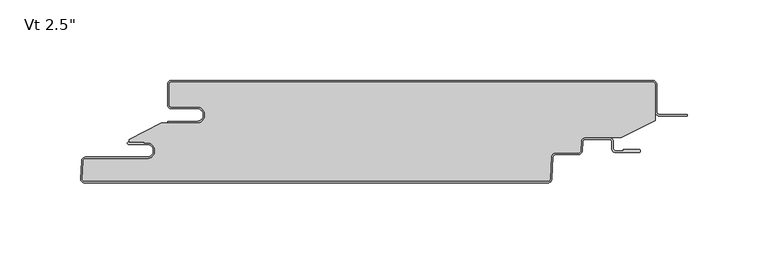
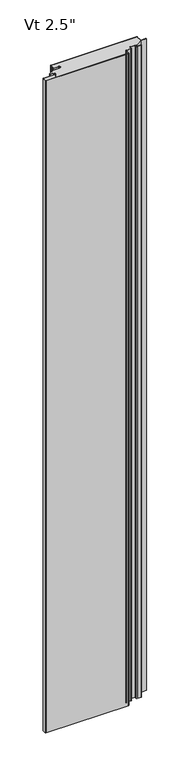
"""IFC4 building model written with IfcOpenShell, lengths in millimetres: plate geometry."""

import ifcopenshell
import ifcopenshell.guid

model = None  # the IFC model being written
_history = None  # IfcOwnerHistory: only IFC2X3 demands one
_inside = {}  # id of a spatial element -> (the spatial element, [elements in it])
_under = {}  # id of a project, library or spatial element -> (it, [spatial elements below it])
_declared = {}  # id of a project -> (the project, [libraries it declares])
_typed = {}  # id of a type object -> (the type object, [elements of that type])
_made_of = {}  # id of a material, layer set ... -> (it, [elements and type objects made of it])


def new_model(schema):
    """Start an empty IFC model of exactly this schema.

    Asked for "IFC4X3", IfcOpenShell would pick the latest addendum, in which some entities
    have other attributes; the version numbers below select the first issue.
    IFC2X3 requires an IfcOwnerHistory on every rooted entity: one is made here for all.
    """
    global model, _history
    if schema == "IFC4X3":
        model = ifcopenshell.file(schema_version=(4, 3, 0, 0))
    else:
        model = ifcopenshell.file(schema=schema)
    _inside.clear()
    _under.clear()
    _declared.clear()
    _typed.clear()
    _made_of.clear()
    _history = None
    if model.schema == "IFC2X3":
        org = make("IfcOrganization", Name="unknown")
        user = make(
            "IfcPersonAndOrganization",
            ThePerson=make("IfcPerson", FamilyName="unknown"),
            TheOrganization=org,
        )
        app = make(
            "IfcApplication",
            ApplicationDeveloper=org,
            Version="unknown",
            ApplicationFullName="unknown",
            ApplicationIdentifier="unknown",
        )
        _history = make(
            "IfcOwnerHistory",
            OwningUser=user,
            OwningApplication=app,
            ChangeAction="ADDED",
            CreationDate=0,
        )
    return model


def make(cls, **values):
    """One entity of the class cls with the attributes given. An attribute that is None is left unset."""
    return model.create_entity(
        cls, **{name: value for name, value in values.items() if value is not None}
    )


def rooted(cls, **values):
    """An entity with a GlobalId (a new one), such as an element, a storey or a relation."""
    return make(cls, GlobalId=ifcopenshell.guid.new(), OwnerHistory=_history, **values)


def si_unit(unit_type, name, prefix=None):
    """IfcSIUnit, for example si_unit("LENGTHUNIT", "METRE", prefix="MILLI")."""
    return make("IfcSIUnit", UnitType=unit_type, Prefix=prefix, Name=name)


def assignment(units):
    """IfcUnitAssignment: the units of a project."""
    return None if units is None else make("IfcUnitAssignment", Units=units)


def point(xyz):
    """IfcCartesianPoint."""
    return None if xyz is None else make("IfcCartesianPoint", Coordinates=xyz)


def direction(xyz):
    """IfcDirection."""
    return None if xyz is None else make("IfcDirection", DirectionRatios=xyz)


def frame(location, z_axis=None, x_axis=None):
    """IfcAxis2Placement3D, a coordinate frame: its origin and axes. An axis left out is left unset."""
    return make(
        "IfcAxis2Placement3D",
        Location=point(location),
        Axis=direction(z_axis),
        RefDirection=direction(x_axis),
    )


def frame_2d(location, x_axis=None):
    """IfcAxis2Placement2D, a coordinate frame in the plane: its origin and x axis."""
    return make(
        "IfcAxis2Placement2D", Location=point(location), RefDirection=direction(x_axis)
    )


def origin():
    """The frame at (0, 0, 0) with its axes left unset."""
    return frame((0.0, 0.0, 0.0))


def origin_with_axes():
    """The frame at (0, 0, 0) with the z axis (0, 0, 1) and the x axis (1, 0, 0) written out."""
    return frame((0.0, 0.0, 0.0), z_axis=(0.0, 0.0, 1.0), x_axis=(1.0, 0.0, 0.0))


def place(relative_to, where):
    """IfcLocalPlacement: puts the frame where relative to a parent placement (None: the world)."""
    return make(
        "IfcLocalPlacement", PlacementRelTo=relative_to, RelativePlacement=where
    )


def context(
    kind, dimensions, precision=None, world=None, true_north=None, identifier=None
):
    """IfcGeometricRepresentationContext, for example the 3D "Model" context."""
    return make(
        "IfcGeometricRepresentationContext",
        ContextIdentifier=identifier,
        ContextType=kind,
        CoordinateSpaceDimension=dimensions,
        Precision=precision,
        WorldCoordinateSystem=world,
        TrueNorth=true_north,
    )


def project(units=None, contexts=None):
    """IfcProject with its units and contexts."""
    return rooted(
        "IfcProject",
        Name="project",
        RepresentationContexts=contexts,
        UnitsInContext=assignment(units),
    )


def spatial(cls, under=None, at=None, **own):
    """A site, building, storey or space (cls), placed at a placement, below another one or the project."""
    s = rooted(cls, ObjectPlacement=at, **own)
    if under is not None:
        _under.setdefault(under.id(), (under, []))[1].append(s)
    return s


def polyline(points):
    """IfcPolyline through the points."""
    return make("IfcPolyline", Points=[point(p) for p in points])


def circle_curve(where, radius):
    """IfcCircle in the frame where."""
    return make("IfcCircle", Position=where, Radius=radius)


def ellipse_curve(where, semi_axis1, semi_axis2):
    """IfcEllipse in the frame where."""
    return make(
        "IfcEllipse", Position=where, SemiAxis1=semi_axis1, SemiAxis2=semi_axis2
    )


def trimmed(basis, trim1, trim2, sense, master):
    """IfcTrimmedCurve: the piece of a basis curve between two trims."""
    return make(
        "IfcTrimmedCurve",
        BasisCurve=basis,
        Trim1=trim1,
        Trim2=trim2,
        SenseAgreement=sense,
        MasterRepresentation=master,
    )


def segment(curve, same_sense, transition):
    """IfcCompositeCurveSegment."""
    return make(
        "IfcCompositeCurveSegment",
        Transition=transition,
        SameSense=same_sense,
        ParentCurve=curve,
    )


def composite_curve(segments, self_intersect=None):
    """IfcCompositeCurve: segments joined end to end."""
    return make("IfcCompositeCurve", Segments=segments, SelfIntersect=self_intersect)


def outline(outer, holes=None, kind="AREA"):
    """IfcArbitraryClosedProfileDef: a profile drawn as a closed curve; with holes, ...WithVoids."""
    if holes is None:
        return make("IfcArbitraryClosedProfileDef", ProfileType=kind, OuterCurve=outer)
    return make(
        "IfcArbitraryProfileDefWithVoids",
        ProfileType=kind,
        OuterCurve=outer,
        InnerCurves=holes,
    )


def extrude(swept, where, along, depth):
    """IfcExtrudedAreaSolid: the profile swept, set in the frame where, extruded along a direction by depth."""
    return make(
        "IfcExtrudedAreaSolid",
        SweptArea=swept,
        Position=where,
        ExtrudedDirection=direction(along),
        Depth=depth,
    )


def shape(context_of_items, identifier, shape_type, items):
    """IfcShapeRepresentation: the items that make up one representation, for example the "Body"."""
    return make(
        "IfcShapeRepresentation",
        ContextOfItems=context_of_items,
        RepresentationIdentifier=identifier,
        RepresentationType=shape_type,
        Items=items,
    )


def source(mapping_origin, context_of_items, identifier, shape_type, items):
    """IfcRepresentationMap: a shape defined once, which mapped items show again and again."""
    return make(
        "IfcRepresentationMap",
        MappingOrigin=mapping_origin,
        MappedRepresentation=shape(context_of_items, identifier, shape_type, items),
    )


def transform(
    local_origin,
    x_axis=None,
    y_axis=None,
    z_axis=None,
    scale=None,
    scale2=None,
    scale3=None,
    uniform=True,
):
    """IfcCartesianTransformationOperator3D, or its non-uniform kind. x_axis, y_axis, z_axis: its Axis1, 2, 3."""
    if uniform:
        return make(
            "IfcCartesianTransformationOperator3D",
            Axis1=direction(x_axis),
            Axis2=direction(y_axis),
            LocalOrigin=point(local_origin),
            Scale=scale,
            Axis3=direction(z_axis),
        )
    return make(
        "IfcCartesianTransformationOperator3DnonUniform",
        Axis1=direction(x_axis),
        Axis2=direction(y_axis),
        LocalOrigin=point(local_origin),
        Scale=scale,
        Axis3=direction(z_axis),
        Scale2=scale2,
        Scale3=scale3,
    )


def mapped(mapping_source, mapping_target):
    """IfcMappedItem: shows the shape of a source again, moved by a transform."""
    return make(
        "IfcMappedItem", MappingSource=mapping_source, MappingTarget=mapping_target
    )


def made_of(thing, what):
    """Note that an element or type object is made of a material, layer set ...; save() writes the relation."""
    if what is not None:
        _made_of.setdefault(what.id(), (what, []))[1].append(thing)
    return thing


def element(
    cls,
    number,
    at=None,
    inside=None,
    cuts=None,
    type_object=None,
    material=None,
    context=None,
    identifier="Body",
    shape_type=None,
    held_by="IfcProductDefinitionShape",
    body=None,
    shapes=None,
    **own,
):
    """One element of the class cls, such as IfcWall. Its Tag is "e" and its number.

    at: its placement. inside: the storey or other place that contains it. cuts: it is an
    opening in that element (IfcRelVoidsElement). A single representation is given by context,
    identifier, shape_type and body (its items); several are given by shapes. held_by: the class
    of the entity that holds the representations. save() writes the other relations.
    """
    e = rooted(cls, Tag="e%d" % number, ObjectPlacement=at, **own)
    if body is not None:
        shapes = [shape(context, identifier, shape_type, body)]
    if shapes is not None:
        e.Representation = make(held_by, Representations=shapes)
    if inside is not None:
        _inside.setdefault(inside.id(), (inside, []))[1].append(e)
    if cuts is not None:
        rooted(
            "IfcRelVoidsElement", RelatingBuildingElement=cuts, RelatedOpeningElement=e
        )
    if type_object is not None:
        _typed.setdefault(type_object.id(), (type_object, []))[1].append(e)
    return made_of(e, material)


def aggregate(whole, parts):
    """IfcRelAggregates: a whole, such as a stair, and the parts it consists of."""
    return rooted("IfcRelAggregates", RelatingObject=whole, RelatedObjects=parts)


def save(model, path):
    """Write the relations noted so far, then the file.

    IfcRelAggregates (storeys below a building ...), IfcRelContainedInSpatialStructure (elements
    in a storey), IfcRelDefinesByType, IfcRelAssociatesMaterial and IfcRelDeclares: one each for
    every whole, place, type object, material and project.
    """
    for whole, parts in _under.values():
        aggregate(whole, parts)
    for where, things in _inside.values():
        rooted(
            "IfcRelContainedInSpatialStructure",
            RelatedElements=things,
            RelatingStructure=where,
        )
    for kind, things in _typed.values():
        rooted("IfcRelDefinesByType", RelatedObjects=things, RelatingType=kind)
    for what, things in _made_of.values():
        rooted("IfcRelAssociatesMaterial", RelatedObjects=things, RelatingMaterial=what)
    for by, libraries in _declared.values():
        rooted("IfcRelDeclares", RelatingContext=by, RelatedDefinitions=libraries)
    model.write(path)


def plane_surface(at):
    """IfcPlane: the flat surface through the origin of the frame at, square to its z axis."""
    return make("IfcPlane", Position=at)


def cylinder_surface(at, radius):
    """IfcCylindricalSurface: all points at the distance radius from the z axis of the frame at."""
    return make("IfcCylindricalSurface", Position=at, Radius=radius)


def revolved_surface(curve, axis_point, axis_direction):
    """IfcSurfaceOfRevolution: the curve turned about the line through axis_point along axis_direction."""
    return make(
        "IfcSurfaceOfRevolution",
        SweptCurve=make("IfcArbitraryOpenProfileDef", ProfileType="CURVE", Curve=curve),
        AxisPosition=make("IfcAxis1Placement", Location=point(axis_point), Axis=direction(axis_direction)),
    )


def extruded_surface(curve, direction_of_extrusion, depth):
    """IfcSurfaceOfLinearExtrusion: the curve pushed along a direction by depth."""
    return make(
        "IfcSurfaceOfLinearExtrusion",
        SweptCurve=make("IfcArbitraryOpenProfileDef", ProfileType="CURVE", Curve=curve),
        ExtrudedDirection=direction(direction_of_extrusion),
        Depth=depth,
    )


def advanced_brep(points, edges, surfaces, faces):
    """IfcAdvancedBrep: a solid bounded by faces that lie on surfaces and meet in shared edges.

    An edge is (start, end): straight between two places in points (the first is 0);
    or (start, end, curve); or (start, end, curve, False) where it runs against its curve.
    A face is (place in surfaces, loops), or (place, loops, False) where it looks against
    its surface's normal. A loop lists edges by number (the first is 1), with a minus sign
    where the edge is run from its end to its start. The first loop is the outer one.
    """
    corners = [point(p) for p in points]
    vertices = [make("IfcVertexPoint", VertexGeometry=c) for c in corners]
    made = []
    for start, end, *more in edges:
        made.append(
            make(
                "IfcEdgeCurve",
                EdgeStart=vertices[start],
                EdgeEnd=vertices[end],
                EdgeGeometry=more[0] if more else make("IfcPolyline", Points=[corners[start], corners[end]]),
                SameSense=more[1] if len(more) > 1 else True,
            )
        )
    hull = []
    for where, loops, *sense in faces:
        bounds = []
        for j, loop in enumerate(loops):
            ring = [make("IfcOrientedEdge", EdgeElement=made[abs(k) - 1], Orientation=k > 0) for k in loop]
            bounds.append(
                make(
                    "IfcFaceOuterBound" if j == 0 else "IfcFaceBound",
                    Bound=make("IfcEdgeLoop", EdgeList=ring),
                    Orientation=True,
                )
            )
        hull.append(make("IfcAdvancedFace", Bounds=bounds, FaceSurface=surfaces[where], SameSense=sense[0] if sense else True))
    return make("IfcAdvancedBrep", Outer=make("IfcClosedShell", CfsFaces=hull))


def plate_cbbe2ff7(model_context):
    return source(origin(), model_context, "Body", "SolidModel", [
        extrude(outline(composite_curve([segment(polyline([(-133.35625, -16.4625), (-149.23125, -16.4625)]), True, "CONTINUOUS"), segment(trimmed(circle_curve(frame_2d((-149.23125, -15.08125)), 1.38125), [point((-149.23125, -16.4625))], [point((-150.6125, -15.08125))], False, "CARTESIAN"), True, "CONTINUOUS"), segment(polyline([(-150.6125, -15.08125), (-150.6125, -2.38125)]), True, "CONTINUOUS"), segment(trimmed(circle_curve(frame_2d((-149.23125, -2.38125)), 1.38125), [point((-150.6125, -2.38125))], [point((-149.23125, -1.0))], False, "CARTESIAN"), True, "CONTINUOUS"), segment(polyline([(-149.23125, -1.0), (149.21875, -1.0)]), True, "CONTINUOUS"), segment(trimmed(circle_curve(frame_2d((149.21875, -2.38125)), 1.38125), [point((149.21875, -1.0))], [point((150.6, -2.38125))], False, "CARTESIAN"), True, "CONTINUOUS"), segment(polyline([(150.6, -2.38125), (150.6, -24.9057308), (129.7830434, -35.5125), (107.3415783, -35.5125)]), True, "CONTINUOUS"), segment(trimmed(circle_curve(frame_2d((107.3415783, -38.1)), 2.5875), [point((107.3415783, -35.5125))], [point((104.7576244, -37.9645807))], True, "CARTESIAN"), True, "CONTINUOUS"), segment(polyline([(104.7576244, -37.9645807), (104.4555481, -43.728539)]), True, "CONTINUOUS"), segment(trimmed(circle_curve(frame_2d((103.0761911, -43.65625)), 1.38125), [point((104.4555481, -43.728539))], [point((103.0761911, -45.0375))], False, "CARTESIAN"), True, "CONTINUOUS"), segment(polyline([(103.0761911, -45.0375), (88.9198847, -45.0375)]), True, "CONTINUOUS"), segment(trimmed(circle_curve(frame_2d((88.9198847, -47.625)), 2.5875), [point((88.9198847, -45.0375))], [point((86.3359307, -47.4895807))], True, "CARTESIAN"), True, "CONTINUOUS"), segment(polyline([(86.3359307, -47.4895807), (85.6178677, -61.191039)]), True, "CONTINUOUS"), segment(trimmed(circle_curve(frame_2d((84.2385107, -61.11875)), 1.38125), [point((85.6178677, -61.191039))], [point((84.2385107, -62.5))], False, "CARTESIAN"), True, "CONTINUOUS"), segment(polyline([(84.2385107, -62.5), (-203.0924535, -62.5)]), True, "CONTINUOUS"), segment(trimmed(circle_curve(frame_2d((-203.0924535, -61.11875)), 1.38125), [point((-203.0924535, -62.5))], [point((-204.4718106, -61.046461))], False, "CARTESIAN"), True, "CONTINUOUS"), segment(polyline([(-204.4718106, -61.046461), (-203.8894291, -49.933961)]), True, "CONTINUOUS"), segment(trimmed(circle_curve(frame_2d((-202.5100721, -50.00625)), 1.38125), [point((-203.8894291, -49.933961))], [point((-202.5100721, -48.625))], False, "CARTESIAN"), True, "CONTINUOUS"), segment(polyline([(-202.5100721, -48.625), (-164.3267674, -48.625)]), True, "CONTINUOUS"), segment(trimmed(circle_curve(frame_2d((-164.3267674, -43.65625)), 4.96875), [point((-164.3267674, -48.625))], [point((-164.3267674, -38.6875))], True, "CARTESIAN"), True, "CONTINUOUS"), segment(polyline([(-164.3267674, -38.6875), (-165.9142674, -38.89375), (-165.9142674, -38.1), (-175.425, -38.1), (-175.425, -36.5326309), (-155.5385922, -26.4), (-133.35625, -26.4)]), True, "CONTINUOUS"), segment(trimmed(circle_curve(frame_2d((-133.35625, -21.43125)), 4.96875), [point((-133.35625, -26.4))], [point((-133.35625, -16.4625))], True, "CARTESIAN"), True, "CONTINUOUS")], self_intersect=False)), origin_with_axes(), (0.0, 0.0, 1.0), 2400.0),
        extrude(outline(composite_curve([segment(polyline([(-151.6125, -25.4), (-133.35625, -25.4)]), True, "CONTINUOUS"), segment(trimmed(circle_curve(frame_2d((-133.35625, -21.43125)), 3.96875), [point((-133.35625, -25.4))], [point((-133.35625, -17.4625))], True, "CARTESIAN"), True, "CONTINUOUS"), segment(polyline([(-133.35625, -17.4625), (-149.23125, -17.4625)]), True, "CONTINUOUS"), segment(trimmed(circle_curve(frame_2d((-149.23125, -15.08125)), 2.38125), [point((-149.23125, -17.4625))], [point((-151.6125, -15.08125))], False, "CARTESIAN"), True, "CONTINUOUS"), segment(polyline([(-151.6125, -15.08125), (-151.6125, -2.38125)]), True, "CONTINUOUS"), segment(trimmed(circle_curve(frame_2d((-149.23125, -2.38125)), 2.38125), [point((-151.6125, -2.38125))], [point((-149.23125, 0.0))], False, "CARTESIAN"), True, "CONTINUOUS"), segment(polyline([(-149.23125, 0.0), (149.21875, 0.0)]), True, "CONTINUOUS"), segment(trimmed(circle_curve(frame_2d((149.21875, -2.38125)), 2.38125), [point((149.21875, 0.0))], [point((151.6, -2.38125))], False, "CARTESIAN"), True, "CONTINUOUS"), segment(polyline([(151.6, -2.38125), (151.6, -19.446875)]), True, "CONTINUOUS"), segment(trimmed(circle_curve(frame_2d((153.1875, -19.446875)), 1.5875), [point((151.6, -19.446875))], [point((153.1875, -21.034375))], True, "CARTESIAN"), True, "CONTINUOUS"), segment(polyline([(153.1875, -21.034375), (170.65, -21.034375), (170.65, -22.034375), (153.1875, -22.034375)]), True, "CONTINUOUS"), segment(trimmed(circle_curve(frame_2d((153.1875, -19.446875)), 2.5875), [point((153.1875, -22.034375))], [point((150.6, -19.446875))], False, "CARTESIAN"), True, "CONTINUOUS"), segment(polyline([(150.6, -19.446875), (150.6, -2.38125)]), True, "CONTINUOUS"), segment(trimmed(circle_curve(frame_2d((149.21875, -2.38125)), 1.38125), [point((150.6, -2.38125))], [point((149.21875, -1.0))], True, "CARTESIAN"), True, "CONTINUOUS"), segment(polyline([(149.21875, -1.0), (-149.23125, -1.0)]), True, "CONTINUOUS"), segment(trimmed(circle_curve(frame_2d((-149.23125, -2.38125)), 1.38125), [point((-149.23125, -1.0))], [point((-150.6125, -2.38125))], True, "CARTESIAN"), True, "CONTINUOUS"), segment(polyline([(-150.6125, -2.38125), (-150.6125, -15.08125)]), True, "CONTINUOUS"), segment(trimmed(circle_curve(frame_2d((-149.23125, -15.08125)), 1.38125), [point((-150.6125, -15.08125))], [point((-149.23125, -16.4625))], True, "CARTESIAN"), True, "CONTINUOUS"), segment(polyline([(-149.23125, -16.4625), (-133.35625, -16.4625)]), True, "CONTINUOUS"), segment(trimmed(circle_curve(frame_2d((-133.35625, -21.43125)), 4.96875), [point((-133.35625, -16.4625))], [point((-133.35625, -26.4))], False, "CARTESIAN"), True, "CONTINUOUS"), segment(polyline([(-133.35625, -26.4), (-151.6125, -26.4), (-151.6125, -25.4)]), True, "CONTINUOUS")], self_intersect=False)), origin_with_axes(), (0.0, 0.0, 1.0), 2400.0),
        advanced_brep(
        [(-175.6377049, -38.1, 2400.0), (-175.6377049, -39.6875, 2400.0), (-164.3267674, -39.6875, 2400.0), (-164.3267674, -47.625, 2400.0), (-202.5100721, -47.625, 2400.0), (-204.8880586, -49.881625, 2400.0), (-205.4704401, -60.994125, 2400.0), (-203.0924535, -63.5, 2400.0), (84.2385107, -63.5, 2400.0), (86.6164973, -61.243375, 2400.0), (87.3345603, -47.5419167, 2400.0), (88.9198847, -46.0375, 2400.0), (103.0761911, -46.0375, 2400.0), (105.4541776, -43.780875, 2400.0), (105.7562539, -38.0169167, 2400.0), (107.3415783, -36.5125, 2400.0), (122.2169826, -36.5125, 2400.0), (123.8044826, -38.1, 2400.0), (123.8044826, -42.2671875, 2400.0), (126.1857326, -44.6484375, 2400.0), (140.6773532, -44.6484375, 2400.0), (140.6773532, -42.8546875, 2400.0), (130.9482326, -42.8546875, 2400.0), (130.9482326, -43.6484375, 2400.0), (126.1857326, -43.6484375, 2400.0), (124.8044826, -42.2671875, 2400.0), (124.8044826, -38.1, 2400.0), (122.2169826, -35.5125, 2400.0), (107.3415783, -35.5125, 2400.0), (104.7576244, -37.9645807, 2400.0), (104.4555481, -43.728539, 2400.0), (103.0761911, -45.0375, 2400.0), (88.9198847, -45.0375, 2400.0), (86.3359307, -47.4895807, 2400.0), (85.6178677, -61.191039, 2400.0), (84.2385107, -62.5, 2400.0), (-203.0924535, -62.5, 2400.0), (-204.4718106, -61.046461, 2400.0), (-203.8894291, -49.933961, 2400.0), (-202.5100721, -48.625, 2400.0), (-164.3267674, -48.625, 2400.0), (-164.3267674, -38.6875, 2400.0), (-165.9142674, -38.89375, 2400.0), (-165.9142674, -38.1, 2400.0), (-175.6377049, -38.1, 0.0), (-165.9142674, -38.1, 0.0), (-165.9142674, -38.89375, 0.0), (-164.3267674, -38.6875, 0.0), (-164.3267674, -48.625, 0.0), (-202.5100721, -48.625, 0.0), (-203.8894291, -49.933961, 0.0), (-204.4718106, -61.046461, 0.0), (-203.0924535, -62.5, 0.0), (84.2385107, -62.5, 0.0), (85.6178677, -61.191039, 0.0), (86.3359307, -47.4895807, 0.0), (88.9198847, -45.0375, 0.0), (103.0761911, -45.0375, 0.0), (104.4555481, -43.728539, 0.0), (104.7576244, -37.9645807, 0.0), (107.3415783, -35.5125, 0.0), (122.2169826, -35.5125, 0.0), (124.8044826, -38.1, 0.0), (124.8044826, -42.2671875, 0.0), (126.1857326, -43.6484375, 0.0), (130.9482326, -43.6484375, 0.0), (130.9482326, -42.8546875, 0.0), (140.6773532, -42.8546875, 0.0), (140.6773532, -44.6484375, 0.0), (126.1857326, -44.6484375, 0.0), (123.8044826, -42.2671875, 0.0), (123.8044826, -38.1, 0.0), (122.2169826, -36.5125, 0.0), (107.3415783, -36.5125, 0.0), (105.7562539, -38.0169167, 0.0), (105.4541776, -43.780875, 0.0), (103.0761911, -46.0375, 0.0), (88.9198847, -46.0375, 0.0), (87.3345603, -47.5419167, 0.0), (86.6164973, -61.243375, 0.0), (84.2385107, -63.5, 0.0), (-203.0924535, -63.5, 0.0), (-205.4704401, -60.994125, 0.0), (-204.8880586, -49.881625, 0.0), (-202.5100721, -47.625, 0.0), (-164.3267674, -47.625, 0.0), (-164.3267674, -39.6875, 0.0), (-175.6377049, -39.6875, 0.0)],
        [
            (0, 1, circle_curve(frame((-175.6377049, -38.89375, 2400.0), z_axis=(0.0, 0.0, 1.0), x_axis=(-1.0, 0.0, 0.0)), 0.79375)),
            (1, 2),
            (2, 3, circle_curve(frame((-164.3267674, -43.65625, 2400.0), z_axis=(0.0, 0.0, -1.0), x_axis=(-1.0, 0.0, 0.0)), 3.96875)),
            (3, 4),
            (4, 5, circle_curve(frame((-202.5100721, -50.00625, 2400.0), z_axis=(0.0, 0.0, 1.0), x_axis=(-1.0, 0.0, 0.0)), 2.38125)),
            (5, 6),
            (6, 7, circle_curve(frame((-203.0924535, -61.11875, 2400.0), z_axis=(0.0, 0.0, 1.0), x_axis=(-1.0, 0.0, 0.0)), 2.38125)),
            (7, 8),
            (8, 9, circle_curve(frame((84.2385107, -61.11875, 2400.0), z_axis=(0.0, 0.0, 1.0), x_axis=(-1.0, 0.0, 0.0)), 2.38125)),
            (9, 10),
            (10, 11, circle_curve(frame((88.9198847, -47.625, 2400.0), z_axis=(0.0, 0.0, -1.0), x_axis=(-1.0, 0.0, 0.0)), 1.5875)),
            (11, 12),
            (12, 13, circle_curve(frame((103.0761911, -43.65625, 2400.0), z_axis=(0.0, 0.0, 1.0), x_axis=(-1.0, 0.0, 0.0)), 2.38125)),
            (13, 14),
            (14, 15, circle_curve(frame((107.3415783, -38.1, 2400.0), z_axis=(0.0, 0.0, -1.0), x_axis=(-1.0, 0.0, 0.0)), 1.5875)),
            (15, 16),
            (16, 17, circle_curve(frame((122.2169826, -38.1, 2400.0), z_axis=(0.0, 0.0, -1.0), x_axis=(-1.0, 0.0, 0.0)), 1.5875)),
            (17, 18),
            (18, 19, circle_curve(frame((126.1857326, -42.2671875, 2400.0), z_axis=(0.0, 0.0, 1.0), x_axis=(-1.0, 0.0, 0.0)), 2.38125)),
            (19, 20),
            (20, 21, ellipse_curve(frame((140.6773532, -43.7515625, 2400.0), z_axis=(0.0, 0.0, 1.0), x_axis=(0.0, 1.0, 0.0)), 0.896875, 0.7852275)),
            (21, 22),
            (22, 23),
            (23, 24),
            (24, 25, circle_curve(frame((126.1857326, -42.2671875, 2400.0), z_axis=(0.0, 0.0, -1.0), x_axis=(-1.0, 0.0, 0.0)), 1.38125)),
            (25, 26),
            (26, 27, circle_curve(frame((122.2169826, -38.1, 2400.0), z_axis=(0.0, 0.0, 1.0), x_axis=(-1.0, 0.0, 0.0)), 2.5875)),
            (27, 28),
            (28, 29, circle_curve(frame((107.3415783, -38.1, 2400.0), z_axis=(0.0, 0.0, 1.0), x_axis=(-1.0, 0.0, 0.0)), 2.5875)),
            (29, 30),
            (30, 31, circle_curve(frame((103.0761911, -43.65625, 2400.0), z_axis=(0.0, 0.0, -1.0), x_axis=(-1.0, 0.0, 0.0)), 1.38125)),
            (31, 32),
            (32, 33, circle_curve(frame((88.9198847, -47.625, 2400.0), z_axis=(0.0, 0.0, 1.0), x_axis=(-1.0, 0.0, 0.0)), 2.5875)),
            (33, 34),
            (34, 35, circle_curve(frame((84.2385107, -61.11875, 2400.0), z_axis=(0.0, 0.0, -1.0), x_axis=(-1.0, 0.0, 0.0)), 1.38125)),
            (35, 36),
            (36, 37, circle_curve(frame((-203.0924535, -61.11875, 2400.0), z_axis=(0.0, 0.0, -1.0), x_axis=(-1.0, 0.0, 0.0)), 1.38125)),
            (37, 38),
            (38, 39, circle_curve(frame((-202.5100721, -50.00625, 2400.0), z_axis=(0.0, 0.0, -1.0), x_axis=(-1.0, 0.0, 0.0)), 1.38125)),
            (39, 40),
            (40, 41, circle_curve(frame((-164.3267674, -43.65625, 2400.0), z_axis=(0.0, 0.0, 1.0), x_axis=(-1.0, 0.0, 0.0)), 4.96875)),
            (41, 42),
            (42, 43),
            (43, 0),
            (44, 45),
            (45, 46),
            (46, 47),
            (47, 48, circle_curve(frame((-164.3267674, -43.65625, 0.0), z_axis=(0.0, 0.0, -1.0), x_axis=(-1.0, 0.0, 0.0)), 4.96875)),
            (48, 49),
            (49, 50, circle_curve(frame((-202.5100721, -50.00625, 0.0), z_axis=(0.0, 0.0, 1.0), x_axis=(-1.0, 0.0, 0.0)), 1.38125)),
            (50, 51),
            (51, 52, circle_curve(frame((-203.0924535, -61.11875, 0.0), z_axis=(0.0, 0.0, 1.0), x_axis=(-1.0, 0.0, 0.0)), 1.38125)),
            (52, 53),
            (53, 54, circle_curve(frame((84.2385107, -61.11875, 0.0), z_axis=(0.0, 0.0, 1.0), x_axis=(-1.0, 0.0, 0.0)), 1.38125)),
            (54, 55),
            (55, 56, circle_curve(frame((88.9198847, -47.625, 0.0), z_axis=(0.0, 0.0, -1.0), x_axis=(-1.0, 0.0, 0.0)), 2.5875)),
            (56, 57),
            (57, 58, circle_curve(frame((103.0761911, -43.65625, 0.0), z_axis=(0.0, 0.0, 1.0), x_axis=(-1.0, 0.0, 0.0)), 1.38125)),
            (58, 59),
            (59, 60, circle_curve(frame((107.3415783, -38.1, 0.0), z_axis=(0.0, 0.0, -1.0), x_axis=(-1.0, 0.0, 0.0)), 2.5875)),
            (60, 61),
            (61, 62, circle_curve(frame((122.2169826, -38.1, 0.0), z_axis=(0.0, 0.0, -1.0), x_axis=(-1.0, 0.0, 0.0)), 2.5875)),
            (62, 63),
            (63, 64, circle_curve(frame((126.1857326, -42.2671875, 0.0), z_axis=(0.0, 0.0, 1.0), x_axis=(-1.0, 0.0, 0.0)), 1.38125)),
            (64, 65),
            (65, 66),
            (66, 67),
            (67, 68, ellipse_curve(frame((140.6773532, -43.7515625, 0.0), z_axis=(0.0, 0.0, -1.0), x_axis=(0.0, 1.0, 0.0)), 0.896875, 0.7852275)),
            (68, 69),
            (69, 70, circle_curve(frame((126.1857326, -42.2671875, 0.0), z_axis=(0.0, 0.0, -1.0), x_axis=(-1.0, 0.0, 0.0)), 2.38125)),
            (70, 71),
            (71, 72, circle_curve(frame((122.2169826, -38.1, 0.0), z_axis=(0.0, 0.0, 1.0), x_axis=(-1.0, 0.0, 0.0)), 1.5875)),
            (72, 73),
            (73, 74, circle_curve(frame((107.3415783, -38.1, 0.0), z_axis=(0.0, 0.0, 1.0), x_axis=(-1.0, 0.0, 0.0)), 1.5875)),
            (74, 75),
            (75, 76, circle_curve(frame((103.0761911, -43.65625, 0.0), z_axis=(0.0, 0.0, -1.0), x_axis=(-1.0, 0.0, 0.0)), 2.38125)),
            (76, 77),
            (77, 78, circle_curve(frame((88.9198847, -47.625, 0.0), z_axis=(0.0, 0.0, 1.0), x_axis=(-1.0, 0.0, 0.0)), 1.5875)),
            (78, 79),
            (79, 80, circle_curve(frame((84.2385107, -61.11875, 0.0), z_axis=(0.0, 0.0, -1.0), x_axis=(-1.0, 0.0, 0.0)), 2.38125)),
            (80, 81),
            (81, 82, circle_curve(frame((-203.0924535, -61.11875, 0.0), z_axis=(0.0, 0.0, -1.0), x_axis=(-1.0, 0.0, 0.0)), 2.38125)),
            (82, 83),
            (83, 84, circle_curve(frame((-202.5100721, -50.00625, 0.0), z_axis=(0.0, 0.0, -1.0), x_axis=(-1.0, 0.0, 0.0)), 2.38125)),
            (84, 85),
            (85, 86, circle_curve(frame((-164.3267674, -43.65625, 0.0), z_axis=(0.0, 0.0, 1.0), x_axis=(-1.0, 0.0, 0.0)), 3.96875)),
            (86, 87),
            (87, 44, circle_curve(frame((-175.6377049, -38.89375, 0.0), z_axis=(0.0, 0.0, -1.0), x_axis=(-1.0, 0.0, 0.0)), 0.79375)),
            (43, 45),
            (44, 0),
            (87, 1),
            (86, 2),
            (85, 3),
            (84, 4),
            (83, 5),
            (82, 6),
            (81, 7),
            (80, 8),
            (79, 9),
            (78, 10),
            (77, 11),
            (76, 12),
            (75, 13),
            (74, 14),
            (73, 15),
            (38, 50),
            (49, 39),
            (37, 51),
            (36, 52),
            (35, 53),
            (34, 54),
            (33, 55),
            (32, 56),
            (31, 57),
            (30, 58),
            (29, 59),
            (28, 60),
            (23, 65),
            (64, 24),
            (63, 25),
            (62, 26),
            (72, 16),
            (71, 17),
            (70, 18),
            (69, 19),
            (68, 20),
            (27, 61),
            (48, 40),
            (47, 41),
            (42, 46),
            (22, 66),
            (21, 67),
        ],
        [
            plane_surface(frame((-0.00625, -63.5, 2400.0), z_axis=(0.0, 0.0, 1.0), x_axis=(0.0, -1.0, 0.0))),
            plane_surface(frame((-0.00625, -63.5, 0.0), z_axis=(0.0, 0.0, -1.0), x_axis=(0.0, -1.0, 0.0))),
            plane_surface(frame((-175.6377049, -38.1, 2400.0), z_axis=(0.0, 1.0, 0.0), x_axis=(0.0, 0.0, -1.0))),
            cylinder_surface(frame((-175.6377049, -38.89375, 2400.0), z_axis=(0.0, 0.0, 1.0), x_axis=(-1.0, 0.0, 0.0)), 0.79375),
            plane_surface(frame((-164.3267674, -39.6875, 2400.0), z_axis=(0.0, -1.0, 0.0), x_axis=(0.0, 0.0, -1.0))),
            revolved_surface(polyline([(-168.2955174, -43.65625, 0.0), (-168.2955174, -43.65625, 2400.0)]), (-164.3267674, -43.65625, 2400.0), (0.0, 0.0, -1.0)),
            plane_surface(frame((-202.5100721, -47.625, 2400.0), z_axis=(0.0, 1.0, 0.0), x_axis=(0.0, 0.0, -1.0))),
            cylinder_surface(frame((-202.5100721, -50.00625, 2400.0), z_axis=(0.0, 0.0, 1.0), x_axis=(-1.0, 0.0, 0.0)), 2.38125),
            plane_surface(frame((-205.4704401, -60.994125, 2400.0), z_axis=(-0.9986295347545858, 0.052335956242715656, 0.0), x_axis=(0.0, 0.0, -1.0))),
            cylinder_surface(frame((-203.0924535, -61.11875, 2400.0), z_axis=(0.0, 0.0, 1.0), x_axis=(-1.0, 0.0, 0.0)), 2.38125),
            plane_surface(frame((84.2385107, -63.5, 2400.0), z_axis=(0.0, -1.0, 0.0), x_axis=(0.0, 0.0, -1.0))),
            cylinder_surface(frame((84.2385107, -61.11875, 2400.0), z_axis=(0.0, 0.0, 1.0), x_axis=(-1.0, 0.0, 0.0)), 2.38125),
            plane_surface(frame((87.3345603, -47.5419167, 2400.0), z_axis=(0.9986295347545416, -0.05233595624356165, 0.0), x_axis=(0.0, 0.0, -1.0))),
            revolved_surface(polyline([(87.33238469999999, -47.625, 0.0), (87.33238469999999, -47.625, 2400.0)]), (88.9198847, -47.625, 2400.0), (0.0, 0.0, -1.0)),
            plane_surface(frame((103.0761911, -46.0375, 2400.0), z_axis=(0.0, -1.0, 0.0), x_axis=(0.0, 0.0, -1.0))),
            cylinder_surface(frame((103.0761911, -43.65625, 2400.0), z_axis=(0.0, 0.0, 1.0), x_axis=(-1.0, 0.0, 0.0)), 2.38125),
            plane_surface(frame((105.7562539, -38.0169167, 2400.0), z_axis=(0.9986295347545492, -0.052335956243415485, 0.0), x_axis=(0.0, 0.0, -1.0))),
            revolved_surface(polyline([(105.75407829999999, -38.1, 0.0), (105.75407829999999, -38.1, 2400.0)]), (107.3415783, -38.1, 2400.0), (0.0, 0.0, -1.0)),
            revolved_surface(polyline([(-203.8913221, -50.00625, 0.0), (-203.8913221, -50.00625, 2400.0)]), (-202.5100721, -50.00625, 2400.0), (0.0, 0.0, -1.0)),
            plane_surface(frame((-203.8894291, -49.933961, 2400.0), z_axis=(0.9986295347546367, -0.05233595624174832, 0.0), x_axis=(0.0, 0.0, -1.0))),
            revolved_surface(polyline([(-204.4737035, -61.11875, 0.0), (-204.4737035, -61.11875, 2400.0)]), (-203.0924535, -61.11875, 2400.0), (0.0, 0.0, -1.0)),
            plane_surface(frame((-203.0924535, -62.5, 2400.0), z_axis=(0.0, 1.0, 0.0), x_axis=(0.0, 0.0, -1.0))),
            revolved_surface(polyline([(82.85726070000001, -61.11875, 0.0), (82.85726070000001, -61.11875, 2400.0)]), (84.2385107, -61.11875, 2400.0), (0.0, 0.0, -1.0)),
            plane_surface(frame((85.6178677, -61.191039, 2400.0), z_axis=(-0.9986295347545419, 0.05233595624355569, 0.0), x_axis=(0.0, 0.0, -1.0))),
            cylinder_surface(frame((88.9198847, -47.625, 2400.0), z_axis=(0.0, 0.0, 1.0), x_axis=(-1.0, 0.0, 0.0)), 2.5875),
            plane_surface(frame((88.9198847, -45.0375, 2400.0), z_axis=(0.0, 1.0, 0.0), x_axis=(0.0, 0.0, -1.0))),
            revolved_surface(polyline([(101.69494110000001, -43.65625, 0.0), (101.69494110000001, -43.65625, 2400.0)]), (103.0761911, -43.65625, 2400.0), (0.0, 0.0, -1.0)),
            plane_surface(frame((104.4555481, -43.728539, 2400.0), z_axis=(-0.9986295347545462, 0.05233595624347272, 0.0), x_axis=(0.0, 0.0, -1.0))),
            cylinder_surface(frame((107.3415783, -38.1, 2400.0), z_axis=(0.0, 0.0, 1.0), x_axis=(-1.0, 0.0, 0.0)), 2.5875),
            plane_surface(frame((126.1857326, -43.6484375, 2400.0), z_axis=(0.0, 1.0, 0.0), x_axis=(0.0, 0.0, -1.0))),
            revolved_surface(polyline([(124.8044826, -42.2671875, 0.0), (124.8044826, -42.2671875, 2400.0)]), (126.1857326, -42.2671875, 2400.0), (0.0, 0.0, -1.0)),
            plane_surface(frame((124.8044826, -38.1, 2400.0), z_axis=(1.0, 0.0, 0.0), x_axis=(0.0, 0.0, -1.0))),
            plane_surface(frame((122.2169826, -36.5125, 2400.0), z_axis=(0.0, -1.0, 0.0), x_axis=(0.0, 0.0, -1.0))),
            revolved_surface(polyline([(120.62948259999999, -38.1, 0.0), (120.62948259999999, -38.1, 2400.0)]), (122.2169826, -38.1, 2400.0), (0.0, 0.0, -1.0)),
            plane_surface(frame((123.8044826, -42.2671875, 2400.0), z_axis=(-1.0, 0.0, 0.0), x_axis=(0.0, 0.0, -1.0))),
            cylinder_surface(frame((126.1857326, -42.2671875, 2400.0), z_axis=(0.0, 0.0, 1.0), x_axis=(-1.0, 0.0, 0.0)), 2.38125),
            plane_surface(frame((140.6773532, -44.6484375, 2400.0), z_axis=(0.0, -1.0, 0.0), x_axis=(0.0, 0.0, -1.0))),
            plane_surface(frame((107.3415783, -35.5125, 2400.0), z_axis=(0.0, 1.0, 0.0), x_axis=(0.0, 0.0, -1.0))),
            cylinder_surface(frame((122.2169826, -38.1, 2400.0), z_axis=(0.0, 0.0, 1.0), x_axis=(-1.0, 0.0, 0.0)), 2.5875),
            plane_surface(frame((-164.3267674, -48.625, 2400.0), z_axis=(0.0, -1.0, 0.0), x_axis=(0.0, 0.0, -1.0))),
            cylinder_surface(frame((-164.3267674, -43.65625, 2400.0), z_axis=(0.0, 0.0, 1.0), x_axis=(-1.0, 0.0, 0.0)), 4.96875),
            plane_surface(frame((-165.9142674, -38.1, 2400.0), z_axis=(1.0, 0.0, 0.0), x_axis=(0.0, 0.0, -1.0))),
            plane_surface(frame((-165.9142674, -38.89375, 2400.0), z_axis=(-0.12883844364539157, 0.9916655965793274, 0.0), x_axis=(0.0, 0.0, -1.0))),
            plane_surface(frame((130.9482326, -43.6484375, 2400.0), z_axis=(-1.0, 0.0, 0.0), x_axis=(0.0, 0.0, -1.0))),
            plane_surface(frame((130.9482326, -42.8546875, 2400.0), z_axis=(0.0, 1.0, 0.0), x_axis=(0.0, 0.0, -1.0))),
            extruded_surface(trimmed(ellipse_curve(frame((140.6773532, -43.7515625, 2400.0), z_axis=(0.0, 0.0, -1.0), x_axis=(0.0, 1.0, 0.0)), 0.896875, 0.7852275), [point((140.6773532, -42.8546875, 2400.0))], [point((140.6773532, -44.6484375, 2400.0))], True, "CARTESIAN"), (0.0, 0.0, -2400.0), 2400.0),
        ],
        [
            (0, [[1, 2, 3, 4, 5, 6, 7, 8, 9, 10, 11, 12, 13, 14, 15, 16, 17, 18, 19, 20, 21, 22, 23, 24, 25, 26, 27, 28, 29, 30, 31, 32, 33, 34, 35, 36, 37, 38, 39, 40, 41, 42, 43, 44]]),
            (1, [[45, 46, 47, 48, 49, 50, 51, 52, 53, 54, 55, 56, 57, 58, 59, 60, 61, 62, 63, 64, 65, 66, 67, 68, 69, 70, 71, 72, 73, 74, 75, 76, 77, 78, 79, 80, 81, 82, 83, 84, 85, 86, 87, 88]]),
            (2, [[89, -45, 90, -44]]),
            (3, [[-90, -88, 91, -1]]),
            (4, [[-91, -87, 92, -2]]),
            (5, [[-92, -86, 93, -3]]),
            (6, [[-93, -85, 94, -4]]),
            (7, [[-94, -84, 95, -5]]),
            (8, [[-95, -83, 96, -6]]),
            (9, [[-96, -82, 97, -7]]),
            (10, [[-97, -81, 98, -8]]),
            (11, [[-98, -80, 99, -9]]),
            (12, [[-99, -79, 100, -10]]),
            (13, [[-100, -78, 101, -11]]),
            (14, [[-101, -77, 102, -12]]),
            (15, [[-102, -76, 103, -13]]),
            (16, [[-103, -75, 104, -14]]),
            (17, [[-104, -74, 105, -15]]),
            (18, [[106, -50, 107, -39]]),
            (19, [[108, -51, -106, -38]]),
            (20, [[109, -52, -108, -37]]),
            (21, [[110, -53, -109, -36]]),
            (22, [[111, -54, -110, -35]]),
            (23, [[112, -55, -111, -34]]),
            (24, [[113, -56, -112, -33]]),
            (25, [[114, -57, -113, -32]]),
            (26, [[115, -58, -114, -31]]),
            (27, [[116, -59, -115, -30]]),
            (28, [[117, -60, -116, -29]]),
            (29, [[118, -65, 119, -24]]),
            (30, [[-119, -64, 120, -25]]),
            (31, [[-120, -63, 121, -26]]),
            (32, [[-105, -73, 122, -16]]),
            (33, [[-122, -72, 123, -17]]),
            (34, [[-123, -71, 124, -18]]),
            (35, [[-124, -70, 125, -19]]),
            (36, [[-125, -69, 126, -20]]),
            (37, [[127, -61, -117, -28]]),
            (38, [[-121, -62, -127, -27]]),
            (39, [[-107, -49, 128, -40]]),
            (40, [[-128, -48, 129, -41]]),
            (41, [[130, -46, -89, -43]]),
            (42, [[-129, -47, -130, -42]]),
            (43, [[131, -66, -118, -23]]),
            (44, [[132, -67, -131, -22]]),
            (45, [[-126, -68, -132, -21]]),
        ],
    ),
    ])


if __name__ == "__main__":
    model = new_model("IFC4")
    model_context = context("Model", 3, world=origin())
    ifc_project = project(units=[si_unit("LENGTHUNIT", "METRE", prefix="MILLI")], contexts=[model_context])
    site = spatial("IfcSite", under=ifc_project)
    building = spatial("IfcBuilding", under=site)
    placement = place(None, origin())
    plate_shape = plate_cbbe2ff7(model_context)
    element("IfcPlate", 1, ObjectType="KIP-12-DWHR-R19-CP-Vt-F : Vt 2.5\"", at=placement, inside=building, context=model_context, shape_type="MappedRepresentation", body=[
        mapped(plate_shape, transform((0.0, 0.0, 0.0), x_axis=(1.0, 0.0, 0.0), y_axis=(0.0, 1.0, 0.0), z_axis=(0.0, 0.0, 1.0))),
    ])
    save(model, "model.ifc")
